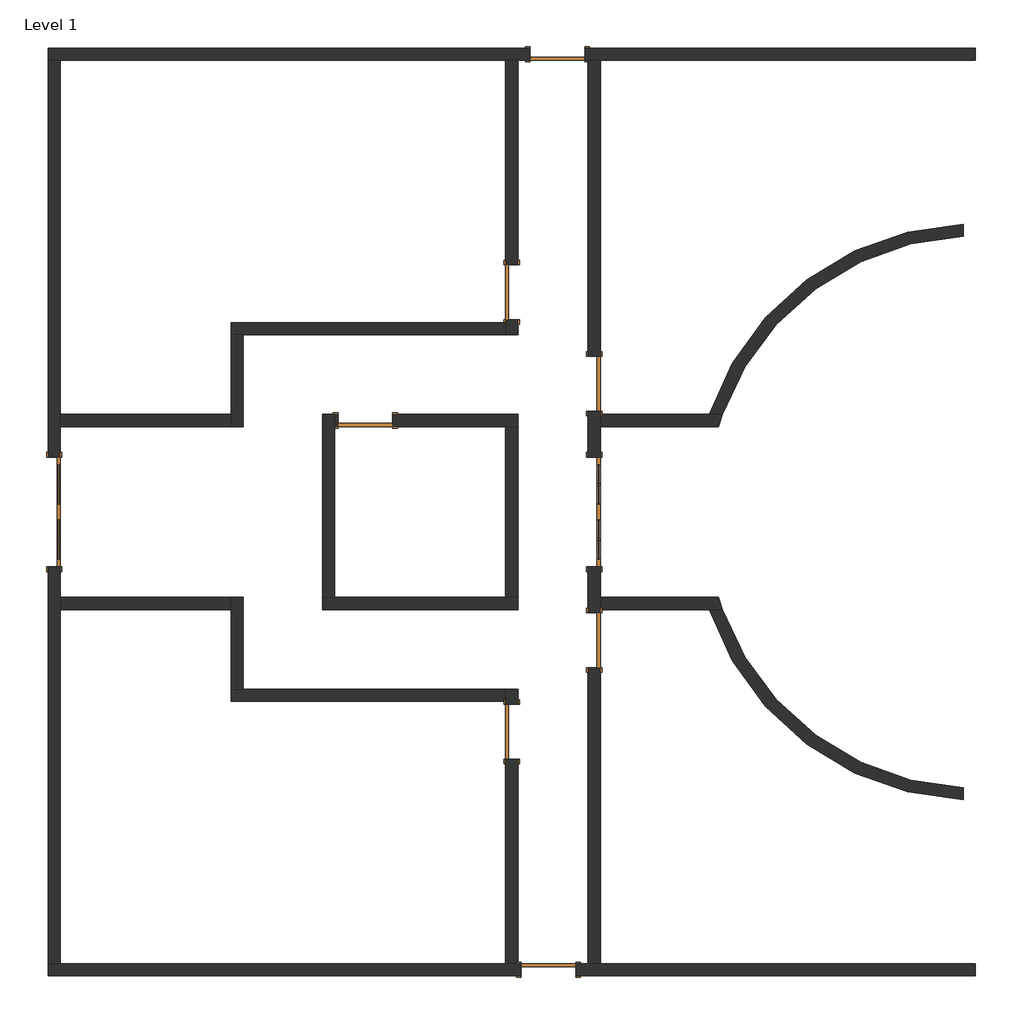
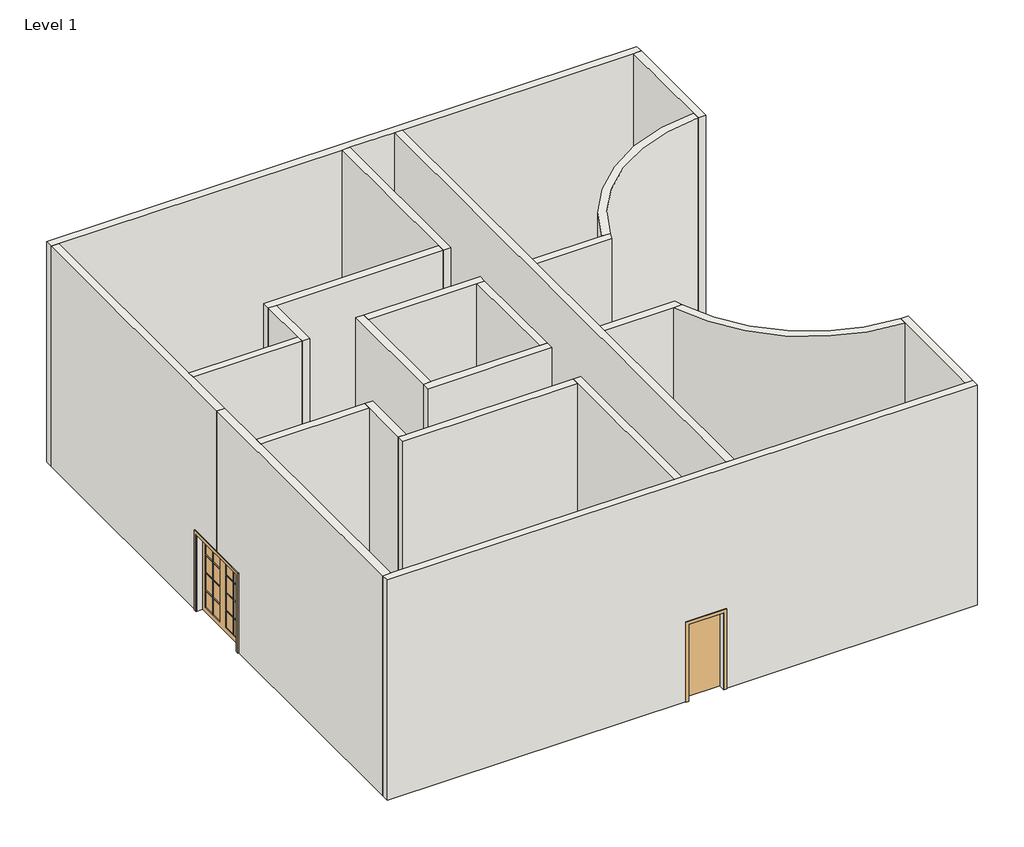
# One storey: 23 walls, 9 doors.
"""IFC4 building model written with IfcOpenShell, lengths in millimetres."""

from ifc_helpers import new_model, si_unit, point, frame, frame_2d, origin, origin_with_axes, place, context, project, spatial, polyline, circle_curve, trimmed, segment, composite_curve, outline, extrude, faceted_brep, transform, mapped, element, save
from ifc_brep_helpers import plane_surface, revolved_surface, advanced_brep
from components import door_62197d2a, door_719f80de, door_54dd4da4

model = new_model("IFC4")

# Units and contexts
model_context = context("Model", 3, world=origin())
ifc_project = project(units=[si_unit("LENGTHUNIT", "METRE", prefix="MILLI")], contexts=[model_context])

# Site, building, storey
site = spatial("IfcSite", under=ifc_project)
building = spatial("IfcBuilding", under=site)
storey = spatial("IfcBuildingStorey", under=building, Name="Level 1", Elevation=0.0)

# Doors
placement = place(None, origin())
door_shape = door_62197d2a(model_context)
element("IfcDoor", 1, ObjectType="Double-Glass 2 : 72\" x 84\"", at=placement, inside=storey, context=model_context, shape_type="MappedRepresentation", body=[
    mapped(door_shape, transform((-15409.5006715, 3652.0803574, 0.0), x_axis=(0.0, -1.0, 0.0), y_axis=(1.0, 0.0, 0.0), z_axis=(0.0, 0.0, 1.0))),
])
element("IfcDoor", 2, ObjectType="Double-Glass 2 : 72\" x 84\"", at=placement, inside=storey, context=model_context, shape_type="MappedRepresentation", body=[
    mapped(door_shape, transform((-6417.9006715, 3652.0803574, 0.0), x_axis=(0.0, -1.0, 0.0), y_axis=(1.0, 0.0, 0.0), z_axis=(0.0, 0.0, 1.0))),
])
door_2_shape = door_719f80de(model_context)
element("IfcDoor", 3, ObjectType="Single-Flush : 36\" x 84\"", at=placement, inside=storey, context=model_context, shape_type="MappedRepresentation", body=[
    mapped(door_2_shape, transform((-7027.5006715, 11272.0803574, 0.0), x_axis=(1.0, 0.0, 0.0), y_axis=(0.0, 1.0, 0.0), z_axis=(0.0, 0.0, 1.0))),
])
element("IfcDoor", 4, ObjectType="Single-Flush : 36\" x 84\"", at=placement, inside=storey, context=model_context, shape_type="MappedRepresentation", body=[
    mapped(door_2_shape, transform((-7179.9006715, -3967.9196426, 0.0), x_axis=(-1.0, 0.0, 0.0), y_axis=(0.0, -1.0, 0.0), z_axis=(0.0, 0.0, 1.0))),
])
element("IfcDoor", 5, ObjectType="Single-Flush : 36\" x 84\"", at=placement, inside=storey, context=model_context, shape_type="MappedRepresentation", body=[
    mapped(door_2_shape, transform((-7789.5006715, 7309.6803574, 0.0), x_axis=(0.0, -1.0, 0.0), y_axis=(1.0, 0.0, 0.0), z_axis=(0.0, 0.0, 1.0))),
])
element("IfcDoor", 6, ObjectType="Single-Flush : 36\" x 84\"", at=placement, inside=storey, context=model_context, shape_type="MappedRepresentation", body=[
    mapped(door_2_shape, transform((-6417.9006715, 1518.4803574, 0.0), x_axis=(0.0, 1.0, 0.0), y_axis=(-1.0, 0.0, 0.0), z_axis=(0.0, 0.0, 1.0))),
])
door_3_shape = door_54dd4da4(model_context)
element("IfcDoor", 7, ObjectType="Single-Flush : 36\" x 84\"", at=placement, inside=storey, context=model_context, shape_type="MappedRepresentation", body=[
    mapped(door_3_shape, transform((-10227.9006715, 5176.0803574, 0.0), x_axis=(-1.0, 0.0, 0.0), y_axis=(0.0, -1.0, 0.0), z_axis=(0.0, 0.0, 1.0))),
])
element("IfcDoor", 8, ObjectType="Single-Flush : 36\" x 84\"", at=placement, inside=storey, context=model_context, shape_type="MappedRepresentation", body=[
    mapped(door_3_shape, transform((-7789.5006715, -5.5196426, 0.0), x_axis=(0.0, 1.0, 0.0), y_axis=(-1.0, 0.0, 0.0), z_axis=(0.0, 0.0, 1.0))),
])
element("IfcDoor", 9, ObjectType="Single-Flush : 36\" x 84\"", at=placement, inside=storey, context=model_context, shape_type="MappedRepresentation", body=[
    mapped(door_3_shape, transform((-6417.9006715, 5785.6803574, 0.0), x_axis=(0.0, -1.0, 0.0), y_axis=(1.0, 0.0, 0.0), z_axis=(0.0, 0.0, 1.0))),
])

# Walls
element("IfcWall", 10, ObjectType="Generic - 8\"", at=placement, inside=storey, context=model_context, shape_type="Brep", body=[
    faceted_brep([(-6570.3006715, 11170.4803574, 2133.6), (-6570.3006715, 11170.4803574, 0.0), (-6519.5006715, 11170.4803574, 0.0), (-6316.3006715, 11170.4803574, 0.0), (-271.1006715, 11170.4803574, 0.0), (-67.9006715, 11170.4803574, 0.0), (-67.9006715, 11170.4803574, 6096.0), (-271.1006715, 11170.4803574, 6096.0), (-6316.3006715, 11170.4803574, 6096.0), (-6519.5006715, 11170.4803574, 6096.0), (-7687.9006715, 11170.4803574, 6096.0), (-7891.1006715, 11170.4803574, 6096.0), (-15307.9006715, 11170.4803574, 6096.0), (-15511.1006715, 11170.4803574, 6096.0), (-15511.1006715, 11170.4803574, 0.0), (-15307.9006715, 11170.4803574, 0.0), (-7891.1006715, 11170.4803574, 0.0), (-7687.9006715, 11170.4803574, 0.0), (-7484.7006715, 11170.4803574, 0.0), (-7484.7006715, 11170.4803574, 2133.6), (-67.9006715, 11373.6803574, 0.0), (-6570.3006715, 11373.6803574, 0.0), (-6570.3006715, 11373.6803574, 2133.6), (-7484.7006715, 11373.6803574, 2133.6), (-7484.7006715, 11373.6803574, 0.0), (-15511.1006715, 11373.6803574, 0.0), (-15511.1006715, 11373.6803574, 6096.0), (-67.9006715, 11373.6803574, 6096.0)], [[[0, 1, 2, 3, 4, 5, 6, 7, 8, 9, 10, 11, 12, 13, 14, 15, 16, 17, 18, 19]], [[20, 21, 22, 23, 24, 25, 26, 27]], [[5, 4, 3, 2, 1, 21, 20]], [[18, 17, 16, 15, 14, 25, 24]], [[13, 12, 11, 10, 9, 8, 7, 6, 27, 26]], [[6, 5, 20, 27]], [[14, 13, 26, 25]], [[22, 21, 1, 0]], [[23, 22, 0, 19]], [[24, 23, 19, 18]]]),
])
element("IfcWall", 11, ObjectType="Generic - 8\"", at=placement, inside=storey, context=model_context, shape_type="AdvancedBrep", body=[
    advanced_brep(
    [(-271.1006715, 11170.4803574, 0.0), (-271.1006715, 8443.2552344, 0.0), (-271.1006715, 8239.8673202, 0.0), (-271.1006715, 8239.8673202, 6096.0), (-271.1006715, 8443.2552344, 6096.0), (-271.1006715, 11170.4803574, 6096.0), (-67.9006715, 11170.4803574, 0.0), (-67.9006715, 11170.4803574, 6096.0), (-67.9006715, 8244.1803284, 6096.0), (-67.9006715, 8244.1803284, 0.0)],
    [
        (0, 1),
        (1, 2),
        (2, 3),
        (3, 4),
        (4, 5),
        (5, 0),
        (6, 7),
        (7, 8),
        (8, 9),
        (9, 6),
        (0, 6),
        (9, 2, circle_curve(frame((-74.6603731, 3773.7854391, 0.0), z_axis=(0.0, 0.0, 1.0), x_axis=(1.0, 0.0, 0.0)), 4470.4)),
        (3, 8, circle_curve(frame((-74.6603731, 3773.7854391, 6096.0), z_axis=(0.0, 0.0, -1.0), x_axis=(1.0, 0.0, 0.0)), 4470.4)),
        (7, 5),
    ],
    [
        plane_surface(frame((-271.1006715, 11272.0803574, 0.0), z_axis=(-1.0, 0.0, 0.0), x_axis=(0.0, -1.0, 0.0))),
        plane_surface(frame((-67.9006715, 11272.0803574, 0.0), z_axis=(1.0, 0.0, 0.0), x_axis=(0.0, 1.0, 0.0))),
        plane_surface(frame((-271.1006715, 11272.0803574, 0.0), z_axis=(0.0, 0.0, -1.0), x_axis=(1.0, 0.0, 0.0))),
        plane_surface(frame((-271.1006715, 8344.8016628, 6096.0), z_axis=(0.0, 0.0, 1.0), x_axis=(1.0, 0.0, 0.0))),
        revolved_surface(polyline([(4395.7396269, 3773.7854391, 0.0), (4395.7396269, 3773.7854391, 6096.0)]), (-74.6603731, 3773.7854391, 0.0), (0.0, 0.0, -1.0)),
        plane_surface(frame((-15409.5006715, 11170.4803574, 0.0), z_axis=(0.0, 1.0, 0.0), x_axis=(1.0, 0.0, 0.0))),
    ],
    [
        (0, [[1, 2, 3, 4, 5, 6]]),
        (1, [[7, 8, 9, 10]]),
        (2, [[-2, -1, 11, -10, 12]]),
        (3, [[-5, -4, 13, -8, 14]]),
        (4, [[-3, -12, -9, -13]]),
        (5, [[-6, -14, -7, -11]]),
    ],
),
])
element("IfcWall", 12, ObjectType="Generic - 8\"", at=placement, inside=storey, context=model_context, shape_type="Brep", body=[
    faceted_brep([(-15511.1006715, 3652.0803574, 6096.0), (-15511.1006715, 11170.4803574, 6096.0), (-15511.1006715, 11170.4803574, 0.0), (-15511.1006715, 4566.4803574, 0.0), (-15511.1006715, 4566.4803574, 2133.6), (-15511.1006715, 3652.0803574, 2133.6), (-15307.9006715, 11170.4803574, 6096.0), (-15307.9006715, 5277.6803574, 6096.0), (-15307.9006715, 5074.4803574, 6096.0), (-15307.9006715, 3652.0803574, 6096.0), (-15307.9006715, 3652.0803574, 2133.6), (-15307.9006715, 4566.4803574, 2133.6), (-15307.9006715, 4566.4803574, 0.0), (-15307.9006715, 5074.4803574, 0.0), (-15307.9006715, 5277.6803574, 0.0), (-15307.9006715, 11170.4803574, 0.0)], [[[0, 1, 2, 3, 4, 5]], [[6, 7, 8, 9, 10, 11, 12, 13, 14, 15]], [[2, 15, 14, 13, 12, 3]], [[9, 0, 5, 10]], [[1, 0, 9, 8, 7, 6]], [[2, 1, 6, 15]], [[4, 11, 10, 5]], [[11, 4, 3, 12]]]),
])
element("IfcWall", 13, ObjectType="Generic - 8\"", at=placement, inside=storey, context=model_context, shape_type="Brep", body=[
    faceted_brep([(-7891.1006715, 6852.4803574, 2133.6), (-7891.1006715, 6852.4803574, 0.0), (-7891.1006715, 6801.6803574, 0.0), (-7891.1006715, 6598.4803574, 0.0), (-7891.1006715, 6598.4803574, 6096.0), (-7891.1006715, 6801.6803574, 6096.0), (-7891.1006715, 11170.4803574, 6096.0), (-7891.1006715, 11170.4803574, 0.0), (-7891.1006715, 7766.8803574, 0.0), (-7891.1006715, 7766.8803574, 2133.6), (-7687.9006715, 6598.4803574, 0.0), (-7687.9006715, 6852.4803574, 0.0), (-7687.9006715, 6852.4803574, 2133.6), (-7687.9006715, 7766.8803574, 2133.6), (-7687.9006715, 7766.8803574, 0.0), (-7687.9006715, 11170.4803574, 0.0), (-7687.9006715, 11170.4803574, 6096.0), (-7687.9006715, 6598.4803574, 6096.0)], [[[0, 1, 2, 3, 4, 5, 6, 7, 8, 9]], [[10, 11, 12, 13, 14, 15, 16, 17]], [[3, 2, 1, 11, 10]], [[8, 7, 15, 14]], [[6, 5, 4, 17, 16]], [[4, 3, 10, 17]], [[7, 6, 16, 15]], [[12, 11, 1, 0]], [[13, 12, 0, 9]], [[14, 13, 9, 8]]]),
])
element("IfcWall", 14, ObjectType="Generic - 8\"", at=placement, inside=storey, context=model_context, shape_type="Brep", body=[
    faceted_brep([(-7891.1006715, 6801.6803574, 0.0), (-12463.1006715, 6801.6803574, 0.0), (-12463.1006715, 6801.6803574, 6096.0), (-7891.1006715, 6801.6803574, 6096.0), (-7891.1006715, 6598.4803574, 0.0), (-7891.1006715, 6598.4803574, 6096.0), (-12259.9006715, 6598.4803574, 6096.0), (-12463.1006715, 6598.4803574, 6096.0), (-12463.1006715, 6598.4803574, 0.0), (-12259.9006715, 6598.4803574, 0.0)], [[[0, 1, 2, 3]], [[4, 5, 6, 7, 8, 9]], [[1, 0, 4, 9, 8]], [[3, 2, 7, 6, 5]], [[2, 1, 8, 7]], [[0, 3, 5, 4]]]),
])
element("IfcWall", 15, ObjectType="Generic - 8\"", at=placement, inside=storey, context=model_context, shape_type="Brep", body=[
    faceted_brep([(-12463.1006715, 6598.4803574, 0.0), (-12463.1006715, 5277.6803574, 0.0), (-12463.1006715, 5074.4803574, 0.0), (-12463.1006715, 5074.4803574, 6096.0), (-12463.1006715, 5277.6803574, 6096.0), (-12463.1006715, 6598.4803574, 6096.0), (-12259.9006715, 6598.4803574, 0.0), (-12259.9006715, 6598.4803574, 6096.0), (-12259.9006715, 5074.4803574, 6096.0), (-12259.9006715, 5074.4803574, 0.0)], [[[0, 1, 2, 3, 4, 5]], [[6, 7, 8, 9]], [[2, 1, 0, 6, 9]], [[5, 4, 3, 8, 7]], [[3, 2, 9, 8]], [[0, 5, 7, 6]]]),
])
element("IfcWall", 16, ObjectType="Generic - 8\"", at=placement, inside=storey, context=model_context, shape_type="SweptSolid", body=[
    extrude(outline(polyline([(-15307.9006715, 5277.6803574), (-12463.1006715, 5277.6803574), (-12463.1006715, 5074.4803574), (-15307.9006715, 5074.4803574), (-15307.9006715, 5277.6803574)])), origin_with_axes(), (0.0, 0.0, 1.0), 6096.0),
])
element("IfcWall", 17, ObjectType="Generic - 8\"", at=placement, inside=storey, context=model_context, shape_type="AdvancedBrep", body=[
    advanced_brep(
    [(-4284.5031534, 5277.6803574, 0.0), (-4499.6843317, 5277.6803574, 0.0), (-6316.3006715, 5277.6803574, 0.0), (-6316.3006715, 5277.6803574, 6096.0), (-4499.6843317, 5277.6803574, 6096.0), (-4284.5031534, 5277.6803574, 6096.0), (-4351.6533459, 5074.4803574, 0.0), (-4351.6533459, 5074.4803574, 6096.0), (-6316.3006715, 5074.4803574, 6096.0), (-6316.3006715, 5074.4803574, 0.0)],
    [
        (0, 1),
        (1, 2),
        (2, 3),
        (3, 4),
        (4, 5),
        (5, 0),
        (6, 7),
        (7, 8),
        (8, 9),
        (9, 6),
        (0, 6, circle_curve(frame((-74.6603731, 3773.7854391, 0.0), z_axis=(0.0, 0.0, 1.0), x_axis=(1.0, 0.0, 0.0)), 4470.4)),
        (9, 2),
        (3, 8),
        (7, 5, circle_curve(frame((-74.6603731, 3773.7854391, 6096.0), z_axis=(0.0, 0.0, -1.0), x_axis=(1.0, 0.0, 0.0)), 4470.4)),
    ],
    [
        plane_surface(frame((-3369.9006715, 5277.6803574, 0.0), z_axis=(0.0, 1.0, 0.0), x_axis=(-1.0, 0.0, 0.0))),
        plane_surface(frame((-3369.9006715, 5074.4803574, 0.0), z_axis=(0.0, -1.0, 0.0), x_axis=(1.0, 0.0, 0.0))),
        plane_surface(frame((-4426.2983362, 5277.6803574, 0.0), z_axis=(0.0, 0.0, -1.0), x_axis=(0.0, -1.0, 0.0))),
        plane_surface(frame((-6417.9006715, 5277.6803574, 6096.0), z_axis=(0.0, 0.0, 1.0), x_axis=(0.0, -1.0, 0.0))),
        revolved_surface(polyline([(4395.7396269, 3773.7854391, 0.0), (4395.7396269, 3773.7854391, 6096.0)]), (-74.6603731, 3773.7854391, 0.0), (0.0, 0.0, -1.0)),
        plane_surface(frame((-6316.3006715, -3967.9196426, 0.0), z_axis=(-1.0, 0.0, 0.0), x_axis=(0.0, 1.0, 0.0))),
    ],
    [
        (0, [[1, 2, 3, 4, 5, 6]]),
        (1, [[7, 8, 9, 10]]),
        (2, [[-2, -1, 11, -10, 12]]),
        (3, [[-5, -4, 13, -8, 14]]),
        (4, [[-6, -14, -7, -11]]),
        (5, [[-3, -12, -9, -13]]),
    ],
),
])
element("IfcWall", 18, ObjectType="Generic - 8\"", at=placement, inside=storey, context=model_context, shape_type="Brep", body=[
    faceted_brep([(-15511.1006715, -4069.5196426, 0.0), (-7637.1006715, -4069.5196426, 0.0), (-7637.1006715, -4069.5196426, 2133.6), (-6722.7006715, -4069.5196426, 2133.6), (-6722.7006715, -4069.5196426, 0.0), (-67.9006715, -4069.5196426, 0.0), (-67.9006715, -4069.5196426, 6096.0), (-15511.1006715, -4069.5196426, 6096.0), (-7637.1006715, -3866.3196426, 2133.6), (-7637.1006715, -3866.3196426, 0.0), (-7687.9006715, -3866.3196426, 0.0), (-7891.1006715, -3866.3196426, 0.0), (-15307.9006715, -3866.3196426, 0.0), (-15511.1006715, -3866.3196426, 0.0), (-15511.1006715, -3866.3196426, 6096.0), (-15307.9006715, -3866.3196426, 6096.0), (-7891.1006715, -3866.3196426, 6096.0), (-7687.9006715, -3866.3196426, 6096.0), (-6519.5006715, -3866.3196426, 6096.0), (-6316.3006715, -3866.3196426, 6096.0), (-271.1006715, -3866.3196426, 6096.0), (-67.9006715, -3866.3196426, 6096.0), (-67.9006715, -3866.3196426, 0.0), (-271.1006715, -3866.3196426, 0.0), (-6316.3006715, -3866.3196426, 0.0), (-6519.5006715, -3866.3196426, 0.0), (-6722.7006715, -3866.3196426, 0.0), (-6722.7006715, -3866.3196426, 2133.6)], [[[0, 1, 2, 3, 4, 5, 6, 7]], [[8, 9, 10, 11, 12, 13, 14, 15, 16, 17, 18, 19, 20, 21, 22, 23, 24, 25, 26, 27]], [[13, 12, 11, 10, 9, 1, 0]], [[26, 25, 24, 23, 22, 5, 4]], [[7, 6, 21, 20, 19, 18, 17, 16, 15, 14]], [[6, 5, 22, 21]], [[0, 7, 14, 13]], [[2, 1, 9, 8]], [[3, 2, 8, 27]], [[4, 3, 27, 26]]]),
])
element("IfcWall", 19, ObjectType="Generic - 8\"", at=placement, inside=storey, context=model_context, shape_type="AdvancedBrep", body=[
    advanced_brep(
    [(-67.9006715, -3866.3196426, 0.0), (-67.9006715, -940.0196137, 0.0), (-67.9006715, -940.0196137, 6096.0), (-67.9006715, -3866.3196426, 6096.0), (-271.1006715, -3866.3196426, 0.0), (-271.1006715, -3866.3196426, 6096.0), (-271.1006715, -1139.0945197, 6096.0), (-271.1006715, -935.7066055, 6096.0), (-271.1006715, -935.7066055, 0.0), (-271.1006715, -1139.0945197, 0.0)],
    [
        (0, 1),
        (1, 2),
        (2, 3),
        (3, 0),
        (4, 5),
        (5, 6),
        (6, 7),
        (7, 8),
        (8, 9),
        (9, 4),
        (0, 4),
        (8, 1, circle_curve(frame((-74.6603731, 3530.3752756, 0.0), z_axis=(0.0, 0.0, 1.0), x_axis=(1.0, 0.0, 0.0)), 4470.4)),
        (2, 7, circle_curve(frame((-74.6603731, 3530.3752756, 6096.0), z_axis=(0.0, 0.0, -1.0), x_axis=(1.0, 0.0, 0.0)), 4470.4)),
        (5, 3),
    ],
    [
        plane_surface(frame((-67.9006715, -3967.9196426, 0.0), z_axis=(1.0, 0.0, 0.0), x_axis=(0.0, 1.0, 0.0))),
        plane_surface(frame((-271.1006715, -3967.9196426, 0.0), z_axis=(-1.0, 0.0, 0.0), x_axis=(0.0, -1.0, 0.0))),
        plane_surface(frame((-67.9006715, -3967.9196426, 0.0), z_axis=(0.0, 0.0, -1.0), x_axis=(-1.0, 0.0, 0.0))),
        plane_surface(frame((-67.9006715, -1040.6409481, 6096.0), z_axis=(0.0, 0.0, 1.0), x_axis=(-1.0, 0.0, 0.0))),
        revolved_surface(polyline([(4395.7396269, 3530.3752756, 0.0), (4395.7396269, 3530.3752756, 6096.0)]), (-74.6603731, 3530.3752756, 0.0), (0.0, 0.0, -1.0)),
        plane_surface(frame((-15409.5006715, -3866.3196426, 0.0), z_axis=(0.0, -1.0, 0.0), x_axis=(-1.0, 0.0, 0.0))),
    ],
    [
        (0, [[1, 2, 3, 4]]),
        (1, [[5, 6, 7, 8, 9, 10]]),
        (2, [[-1, 11, -10, -9, 12]]),
        (3, [[-3, 13, -7, -6, 14]]),
        (4, [[-2, -12, -8, -13]]),
        (5, [[-4, -14, -5, -11]]),
    ],
),
])
element("IfcWall", 20, ObjectType="Generic - 8\"", at=placement, inside=storey, context=model_context, shape_type="Brep", body=[
    faceted_brep([(-6316.3006715, 1975.6803574, 2133.6), (-6316.3006715, 1975.6803574, 0.0), (-6316.3006715, 2026.4803574, 0.0), (-6316.3006715, 2229.6803574, 0.0), (-6316.3006715, 2737.6803574, 0.0), (-6316.3006715, 2737.6803574, 2133.6), (-6316.3006715, 4566.4803574, 2133.6), (-6316.3006715, 4566.4803574, 0.0), (-6316.3006715, 5074.4803574, 0.0), (-6316.3006715, 5277.6803574, 0.0), (-6316.3006715, 5328.4803574, 0.0), (-6316.3006715, 5328.4803574, 2133.6), (-6316.3006715, 6242.8803574, 2133.6), (-6316.3006715, 6242.8803574, 0.0), (-6316.3006715, 11170.4803574, 0.0), (-6316.3006715, 11170.4803574, 6096.0), (-6316.3006715, 5277.6803574, 6096.0), (-6316.3006715, 5074.4803574, 6096.0), (-6316.3006715, 2229.6803574, 6096.0), (-6316.3006715, 2026.4803574, 6096.0), (-6316.3006715, -3866.3196426, 6096.0), (-6316.3006715, -3866.3196426, 0.0), (-6316.3006715, 1061.2803574, 0.0), (-6316.3006715, 1061.2803574, 2133.6), (-6519.5006715, 2737.6803574, 0.0), (-6519.5006715, 1975.6803574, 0.0), (-6519.5006715, 1975.6803574, 2133.6), (-6519.5006715, 1061.2803574, 2133.6), (-6519.5006715, 1061.2803574, 0.0), (-6519.5006715, -3866.3196426, 0.0), (-6519.5006715, -3866.3196426, 6096.0), (-6519.5006715, 11170.4803574, 6096.0), (-6519.5006715, 11170.4803574, 0.0), (-6519.5006715, 6242.8803574, 0.0), (-6519.5006715, 6242.8803574, 2133.6), (-6519.5006715, 5328.4803574, 2133.6), (-6519.5006715, 5328.4803574, 0.0), (-6519.5006715, 4566.4803574, 0.0), (-6519.5006715, 4566.4803574, 2133.6), (-6519.5006715, 2737.6803574, 2133.6)], [[[0, 1, 2, 3, 4, 5, 6, 7, 8, 9, 10, 11, 12, 13, 14, 15, 16, 17, 18, 19, 20, 21, 22, 23]], [[24, 25, 26, 27, 28, 29, 30, 31, 32, 33, 34, 35, 36, 37, 38, 39]], [[4, 3, 2, 1, 25, 24]], [[37, 36, 10, 9, 8, 7]], [[33, 32, 14, 13]], [[22, 21, 29, 28]], [[20, 19, 18, 17, 16, 15, 31, 30]], [[21, 20, 30, 29]], [[15, 14, 32, 31]], [[5, 4, 24, 39]], [[6, 5, 39, 38]], [[7, 6, 38, 37]], [[11, 10, 36, 35]], [[12, 11, 35, 34]], [[13, 12, 34, 33]], [[26, 25, 1, 0]], [[27, 26, 0, 23]], [[28, 27, 23, 22]]]),
])
element("IfcWall", 21, ObjectType="Generic - 8\"", at=placement, inside=storey, context=model_context, shape_type="Brep", body=[
    faceted_brep([(-7687.9006715, 451.6803574, 2133.6), (-7687.9006715, 451.6803574, 0.0), (-7687.9006715, 705.6803574, 0.0), (-7687.9006715, 705.6803574, 6096.0), (-7687.9006715, -3866.3196426, 6096.0), (-7687.9006715, -3866.3196426, 0.0), (-7687.9006715, -462.7196426, 0.0), (-7687.9006715, -462.7196426, 2133.6), (-7891.1006715, 705.6803574, 0.0), (-7891.1006715, 502.4803574, 0.0), (-7891.1006715, 451.6803574, 0.0), (-7891.1006715, 451.6803574, 2133.6), (-7891.1006715, -462.7196426, 2133.6), (-7891.1006715, -462.7196426, 0.0), (-7891.1006715, -3866.3196426, 0.0), (-7891.1006715, -3866.3196426, 6096.0), (-7891.1006715, 502.4803574, 6096.0), (-7891.1006715, 705.6803574, 6096.0)], [[[0, 1, 2, 3, 4, 5, 6, 7]], [[8, 9, 10, 11, 12, 13, 14, 15, 16, 17]], [[2, 1, 10, 9, 8]], [[6, 5, 14, 13]], [[4, 3, 17, 16, 15]], [[3, 2, 8, 17]], [[5, 4, 15, 14]], [[11, 10, 1, 0]], [[12, 11, 0, 7]], [[13, 12, 7, 6]]]),
])
element("IfcWall", 22, ObjectType="Generic - 8\"", at=placement, inside=storey, context=model_context, shape_type="Brep", body=[
    faceted_brep([(-7891.1006715, 705.6803574, 0.0), (-12259.9006715, 705.6803574, 0.0), (-12463.1006715, 705.6803574, 0.0), (-12463.1006715, 705.6803574, 6096.0), (-12259.9006715, 705.6803574, 6096.0), (-7891.1006715, 705.6803574, 6096.0), (-7891.1006715, 502.4803574, 0.0), (-7891.1006715, 502.4803574, 6096.0), (-12463.1006715, 502.4803574, 6096.0), (-12463.1006715, 502.4803574, 0.0)], [[[0, 1, 2, 3, 4, 5]], [[6, 7, 8, 9]], [[2, 1, 0, 6, 9]], [[5, 4, 3, 8, 7]], [[3, 2, 9, 8]], [[0, 5, 7, 6]]]),
])
element("IfcWall", 23, ObjectType="Generic - 8\"", at=placement, inside=storey, context=model_context, shape_type="Brep", body=[
    faceted_brep([(-12259.9006715, 705.6803574, 0.0), (-12259.9006715, 2229.6803574, 0.0), (-12259.9006715, 2229.6803574, 6096.0), (-12259.9006715, 705.6803574, 6096.0), (-12463.1006715, 705.6803574, 0.0), (-12463.1006715, 705.6803574, 6096.0), (-12463.1006715, 2026.4803574, 6096.0), (-12463.1006715, 2229.6803574, 6096.0), (-12463.1006715, 2229.6803574, 0.0), (-12463.1006715, 2026.4803574, 0.0)], [[[0, 1, 2, 3]], [[4, 5, 6, 7, 8, 9]], [[1, 0, 4, 9, 8]], [[3, 2, 7, 6, 5]], [[2, 1, 8, 7]], [[0, 3, 5, 4]]]),
])
element("IfcWall", 24, ObjectType="Generic - 8\"", at=placement, inside=storey, context=model_context, shape_type="SweptSolid", body=[
    extrude(outline(polyline([(-15307.9006715, 2229.6803574), (-12463.1006715, 2229.6803574), (-12463.1006715, 2026.4803574), (-15307.9006715, 2026.4803574), (-15307.9006715, 2229.6803574)])), origin_with_axes(), (0.0, 0.0, 1.0), 6096.0),
])
element("IfcWall", 25, ObjectType="Generic - 8\"", at=placement, inside=storey, context=model_context, shape_type="AdvancedBrep", body=[
    advanced_brep(
    [(-4351.6533459, 2229.6803574, 0.0), (-6316.3006715, 2229.6803574, 0.0), (-6316.3006715, 2229.6803574, 6096.0), (-4351.6533459, 2229.6803574, 6096.0), (-4284.5031534, 2026.4803574, 0.0), (-4284.5031534, 2026.4803574, 6096.0), (-4499.6843317, 2026.4803574, 6096.0), (-6316.3006715, 2026.4803574, 6096.0), (-6316.3006715, 2026.4803574, 0.0), (-4499.6843317, 2026.4803574, 0.0)],
    [
        (0, 1),
        (1, 2),
        (2, 3),
        (3, 0),
        (4, 5),
        (5, 6),
        (6, 7),
        (7, 8),
        (8, 9),
        (9, 4),
        (0, 4, circle_curve(frame((-74.6603731, 3530.3752756, 0.0), z_axis=(0.0, 0.0, 1.0), x_axis=(1.0, 0.0, 0.0)), 4470.4)),
        (8, 1),
        (2, 7),
        (5, 3, circle_curve(frame((-74.6603731, 3530.3752756, 6096.0), z_axis=(0.0, 0.0, -1.0), x_axis=(1.0, 0.0, 0.0)), 4470.4)),
    ],
    [
        plane_surface(frame((-3369.9006715, 2229.6803574, 0.0), z_axis=(0.0, 1.0, 0.0), x_axis=(-1.0, 0.0, 0.0))),
        plane_surface(frame((-3369.9006715, 2026.4803574, 0.0), z_axis=(0.0, -1.0, 0.0), x_axis=(1.0, 0.0, 0.0))),
        plane_surface(frame((-4426.2983362, 2229.6803574, 0.0), z_axis=(0.0, 0.0, -1.0), x_axis=(0.0, -1.0, 0.0))),
        plane_surface(frame((-6417.9006715, 2229.6803574, 6096.0), z_axis=(0.0, 0.0, 1.0), x_axis=(0.0, -1.0, 0.0))),
        revolved_surface(polyline([(4395.7396269, 3530.3752756, 0.0), (4395.7396269, 3530.3752756, 6096.0)]), (-74.6603731, 3530.3752756, 0.0), (0.0, 0.0, -1.0)),
        plane_surface(frame((-6316.3006715, -3967.9196426, 0.0), z_axis=(-1.0, 0.0, 0.0), x_axis=(0.0, 1.0, 0.0))),
    ],
    [
        (0, [[1, 2, 3, 4]]),
        (1, [[5, 6, 7, 8, 9, 10]]),
        (2, [[-1, 11, -10, -9, 12]]),
        (3, [[-3, 13, -7, -6, 14]]),
        (4, [[-4, -14, -5, -11]]),
        (5, [[-2, -12, -8, -13]]),
    ],
),
])
element("IfcWall", 26, ObjectType="Generic - 8\"", at=placement, inside=storey, context=model_context, shape_type="Brep", body=[
    faceted_brep([(-15307.9006715, 3652.0803574, 6096.0), (-15307.9006715, 2229.6803574, 6096.0), (-15307.9006715, 2026.4803574, 6096.0), (-15307.9006715, -3866.3196426, 6096.0), (-15307.9006715, -3866.3196426, 0.0), (-15307.9006715, 2026.4803574, 0.0), (-15307.9006715, 2229.6803574, 0.0), (-15307.9006715, 2737.6803574, 0.0), (-15307.9006715, 2737.6803574, 2133.6), (-15307.9006715, 3652.0803574, 2133.6), (-15511.1006715, -3866.3196426, 6096.0), (-15511.1006715, 3652.0803574, 6096.0), (-15511.1006715, 3652.0803574, 2133.6), (-15511.1006715, 2737.6803574, 2133.6), (-15511.1006715, 2737.6803574, 0.0), (-15511.1006715, -3866.3196426, 0.0)], [[[0, 1, 2, 3, 4, 5, 6, 7, 8, 9]], [[10, 11, 12, 13, 14, 15]], [[4, 15, 14, 7, 6, 5]], [[11, 0, 9, 12]], [[3, 2, 1, 0, 11, 10]], [[4, 3, 10, 15]], [[13, 8, 7, 14]], [[8, 13, 12, 9]]]),
])
element("IfcWall", 27, ObjectType="Generic - 8\"", at=placement, inside=storey, context=model_context, shape_type="Brep", body=[
    faceted_brep([(-10685.1006715, 5277.6803574, 2133.6), (-10685.1006715, 5277.6803574, 0.0), (-10735.9006715, 5277.6803574, 0.0), (-10735.9006715, 5277.6803574, 6096.0), (-7687.9006715, 5277.6803574, 6096.0), (-7687.9006715, 5277.6803574, 0.0), (-9770.7006715, 5277.6803574, 0.0), (-9770.7006715, 5277.6803574, 2133.6), (-10735.9006715, 5074.4803574, 0.0), (-10685.1006715, 5074.4803574, 0.0), (-10685.1006715, 5074.4803574, 2133.6), (-9770.7006715, 5074.4803574, 2133.6), (-9770.7006715, 5074.4803574, 0.0), (-7891.1006715, 5074.4803574, 0.0), (-7687.9006715, 5074.4803574, 0.0), (-7687.9006715, 5074.4803574, 6096.0), (-7891.1006715, 5074.4803574, 6096.0), (-10735.9006715, 5074.4803574, 6096.0)], [[[0, 1, 2, 3, 4, 5, 6, 7]], [[8, 9, 10, 11, 12, 13, 14, 15, 16, 17]], [[2, 1, 9, 8]], [[6, 5, 14, 13, 12]], [[4, 3, 17, 16, 15]], [[5, 4, 15, 14]], [[3, 2, 8, 17]], [[10, 9, 1, 0]], [[11, 10, 0, 7]], [[12, 11, 7, 6]]]),
])
element("IfcWall", 28, ObjectType="Generic - 8\"", at=placement, inside=storey, context=model_context, shape_type="Brep", body=[
    faceted_brep([(-10735.9006715, 2229.6803574, 0.0), (-10735.9006715, 5074.4803574, 0.0), (-10735.9006715, 5277.6803574, 0.0), (-10735.9006715, 5277.6803574, 6096.0), (-10735.9006715, 5074.4803574, 6096.0), (-10735.9006715, 2229.6803574, 6096.0), (-10939.1006715, 2229.6803574, 0.0), (-10939.1006715, 2229.6803574, 6096.0), (-10939.1006715, 5277.6803574, 6096.0), (-10939.1006715, 5277.6803574, 0.0)], [[[0, 1, 2, 3, 4, 5]], [[6, 7, 8, 9]], [[2, 1, 0, 6, 9]], [[5, 4, 3, 8, 7]], [[3, 2, 9, 8]], [[0, 5, 7, 6]]]),
])
element("IfcWall", 29, ObjectType="Generic - 8\"", at=placement, inside=storey, context=model_context, shape_type="Brep", body=[
    faceted_brep([(-7687.9006715, 2229.6803574, 0.0), (-7891.1006715, 2229.6803574, 0.0), (-10735.9006715, 2229.6803574, 0.0), (-10939.1006715, 2229.6803574, 0.0), (-10939.1006715, 2229.6803574, 6096.0), (-10735.9006715, 2229.6803574, 6096.0), (-7891.1006715, 2229.6803574, 6096.0), (-7687.9006715, 2229.6803574, 6096.0), (-7687.9006715, 2026.4803574, 0.0), (-7687.9006715, 2026.4803574, 6096.0), (-10939.1006715, 2026.4803574, 6096.0), (-10939.1006715, 2026.4803574, 0.0)], [[[0, 1, 2, 3, 4, 5, 6, 7]], [[8, 9, 10, 11]], [[3, 2, 1, 0, 8, 11]], [[7, 6, 5, 4, 10, 9]], [[0, 7, 9, 8]], [[4, 3, 11, 10]]]),
])
element("IfcWall", 30, ObjectType="Generic - 8\"", at=placement, inside=storey, context=model_context, shape_type="SweptSolid", body=[
    extrude(outline(polyline([(-7687.9006715, 5074.4803574), (-7687.9006715, 2229.6803574), (-7891.1006715, 2229.6803574), (-7891.1006715, 5074.4803574), (-7687.9006715, 5074.4803574)])), origin_with_axes(), (0.0, 0.0, 1.0), 6096.0),
])
element("IfcWall", 31, ObjectType="Generic - 8\"", at=placement, inside=storey, context=model_context, shape_type="SweptSolid", body=[
    extrude(outline(composite_curve([segment(polyline([(-4284.5031534, 5277.6803574), (-4499.6843317, 5277.6803574)]), True, "CONTINUOUS"), segment(trimmed(circle_curve(frame_2d((-74.6603731, 3773.7854391)), 4673.6), [point((-4499.6843317, 5277.6803574))], [point((-271.1006715, 8443.2552344))], False, "CARTESIAN"), True, "CONTINUOUS"), segment(polyline([(-271.1006715, 8443.2552344), (-271.1006715, 8239.8673202)]), True, "CONTINUOUS"), segment(trimmed(circle_curve(frame_2d((-74.6603731, 3773.7854391)), 4470.4), [point((-271.1006715, 8239.8673202))], [point((-4284.5031534, 5277.6803574))], True, "CARTESIAN"), True, "CONTINUOUS")], self_intersect=False)), origin_with_axes(), (0.0, 0.0, 1.0), 6096.0),
])
element("IfcWall", 32, ObjectType="Generic - 8\"", at=placement, inside=storey, context=model_context, shape_type="SweptSolid", body=[
    extrude(outline(composite_curve([segment(polyline([(-4499.6843317, 2026.4803574), (-4284.5031534, 2026.4803574)]), True, "CONTINUOUS"), segment(trimmed(circle_curve(frame_2d((-74.6603731, 3530.3752756)), 4470.4), [point((-4284.5031534, 2026.4803574))], [point((-271.1006715, -935.7066055))], True, "CARTESIAN"), True, "CONTINUOUS"), segment(polyline([(-271.1006715, -935.7066055), (-271.1006715, -1139.0945197)]), True, "CONTINUOUS"), segment(trimmed(circle_curve(frame_2d((-74.6603731, 3530.3752756)), 4673.6), [point((-271.1006715, -1139.0945197))], [point((-4499.6843317, 2026.4803574))], False, "CARTESIAN"), True, "CONTINUOUS")], self_intersect=False)), origin_with_axes(), (0.0, 0.0, 1.0), 6096.0),
])

save(model, "model.ifc")
